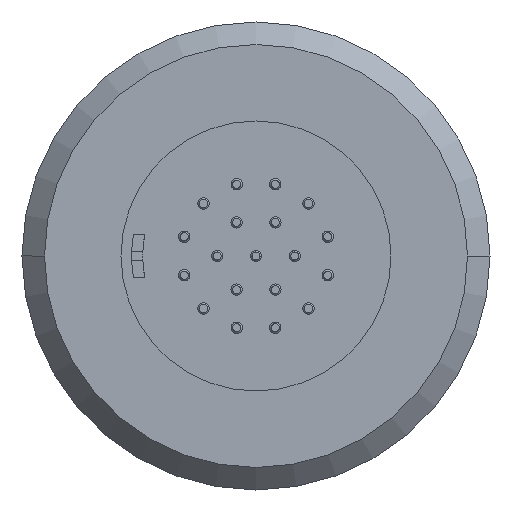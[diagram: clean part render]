
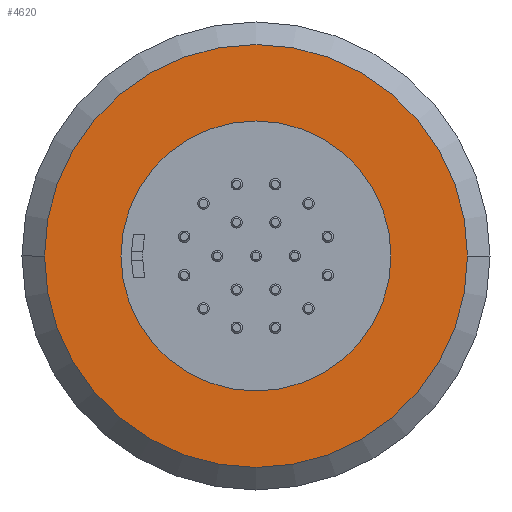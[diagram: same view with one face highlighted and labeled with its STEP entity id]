
A CAD part, left-side view. The second image highlights one B-rep face of the part: STEP entity #4620.
In plain terms, the highlighted planar face has unit normal (-1, 0, 0).
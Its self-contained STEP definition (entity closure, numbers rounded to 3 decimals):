
#519=CARTESIAN_POINT('',(-9.,0.,0.));
#520=DIRECTION('',(1.,0.,0.));
#521=DIRECTION('',(0.,1.,0.));
#522=AXIS2_PLACEMENT_3D('',#519,#520,#521);
#524=CARTESIAN_POINT('',(-9.,0.,0.));
#525=DIRECTION('',(1.,0.,0.));
#526=DIRECTION('',(0.,0.,1.));
#527=AXIS2_PLACEMENT_3D('',#524,#525,#526);
#529=CARTESIAN_POINT('',(-9.,0.,0.));
#530=DIRECTION('',(1.,0.,0.));
#531=DIRECTION('',(0.,-1.,0.));
#532=AXIS2_PLACEMENT_3D('',#529,#530,#531);
#534=CARTESIAN_POINT('',(-9.,0.,0.));
#535=DIRECTION('',(1.,0.,0.));
#536=DIRECTION('',(0.,0.,-1.));
#537=AXIS2_PLACEMENT_3D('',#534,#535,#536);
#539=CARTESIAN_POINT('',(-9.,0.,0.));
#540=DIRECTION('',(-1.,0.,0.));
#541=DIRECTION('',(0.,-1.,0.));
#542=AXIS2_PLACEMENT_3D('',#539,#540,#541);
#544=CARTESIAN_POINT('',(-9.,0.,0.));
#545=DIRECTION('',(-1.,0.,0.));
#546=DIRECTION('',(0.,1.,0.));
#547=AXIS2_PLACEMENT_3D('',#544,#545,#546);
#3429=CARTESIAN_POINT('',(-9.,-9.4,0.));
#3430=VERTEX_POINT('',#3429);
#3431=CARTESIAN_POINT('',(-9.,9.4,0.));
#3432=CARTESIAN_POINT('',(-9.,0.,9.4));
#3433=VERTEX_POINT('',#3431);
#3434=VERTEX_POINT('',#3432);
#3437=CARTESIAN_POINT('',(-9.,0.,-9.4));
#3438=VERTEX_POINT('',#3437);
#3439=CARTESIAN_POINT('',(-9.,-6.,0.));
#3440=CARTESIAN_POINT('',(-9.,6.,0.));
#3441=VERTEX_POINT('',#3439);
#3442=VERTEX_POINT('',#3440);
#4603=CARTESIAN_POINT('',(-9.,0.,0.));
#4604=DIRECTION('',(-1.,0.,0.));
#4605=DIRECTION('',(0.,-1.,0.));
#4606=AXIS2_PLACEMENT_3D('',#4603,#4604,#4605);
#4607=PLANE('',#4606);
#4608=ORIENTED_EDGE('',*,*,#4544,.T.);
#4609=ORIENTED_EDGE('',*,*,#4542,.T.);
#4610=ORIENTED_EDGE('',*,*,#4570,.T.);
#4611=ORIENTED_EDGE('',*,*,#4568,.T.);
#4612=EDGE_LOOP('',(#4608,#4609,#4610,#4611));
#4613=FACE_OUTER_BOUND('',#4612,.F.);
#4615=ORIENTED_EDGE('',*,*,#4614,.T.);
#4617=ORIENTED_EDGE('',*,*,#4616,.T.);
#4618=EDGE_LOOP('',(#4615,#4617));
#4619=FACE_BOUND('',#4618,.F.);
#523=CIRCLE('',#522,9.4);
#528=CIRCLE('',#527,9.4);
#533=CIRCLE('',#532,9.4);
#538=CIRCLE('',#537,9.4);
#543=CIRCLE('',#542,6.);
#548=CIRCLE('',#547,6.);
#4542=EDGE_CURVE('',#3434,#3430,#528,.T.);
#4544=EDGE_CURVE('',#3433,#3434,#523,.T.);
#4568=EDGE_CURVE('',#3438,#3433,#538,.T.);
#4570=EDGE_CURVE('',#3430,#3438,#533,.T.);
#4614=EDGE_CURVE('',#3441,#3442,#543,.T.);
#4616=EDGE_CURVE('',#3442,#3441,#548,.T.);
#4620=ADVANCED_FACE('',(#4613,#4619),#4607,.T.);
